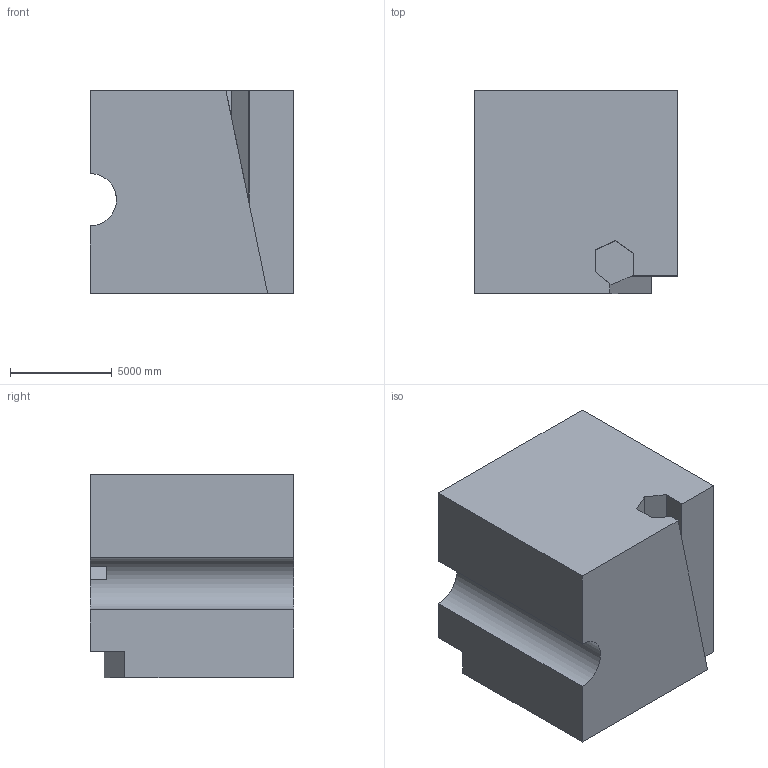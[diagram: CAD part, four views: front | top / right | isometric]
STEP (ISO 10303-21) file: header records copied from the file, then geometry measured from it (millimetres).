
FILE_DESCRIPTION (( 'STEP AP203' ), '1' );
FILE_NAME ('52.STEP', '2022-09-02T15:29:47', ( 'user' ), ( '' ), 'SwSTEP 2.0', 'SolidWorks 2021', '' );
FILE_SCHEMA (( 'CONFIG_CONTROL_DESIGN' ));
Length unit declared in the file: centimetre
Products named in the file (1): 52
Bounding box: 10000 x 10000 x 10000 mm (x, y, z)
Volume: 897449776517.5 mm3; surface area: 650334254.3 mm2
Topology: 1 solids, 1 shells, 29 faces, 81 edges, 54 vertices
Faces by surface type: plane 28, cylinder 1
Entity records: 996 total; most frequent: CARTESIAN_POINT 165, ORIENTED_EDGE 162, DIRECTION 145, EDGE_CURVE 81, VECTOR 77, LINE 77, VERTEX_POINT 54, AXIS2_PLACEMENT_3D 34
